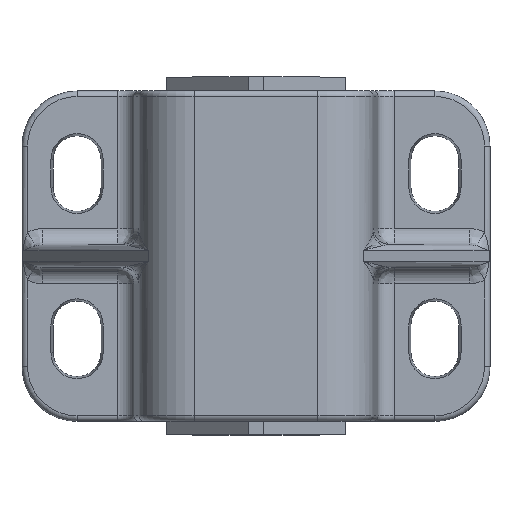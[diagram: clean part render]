
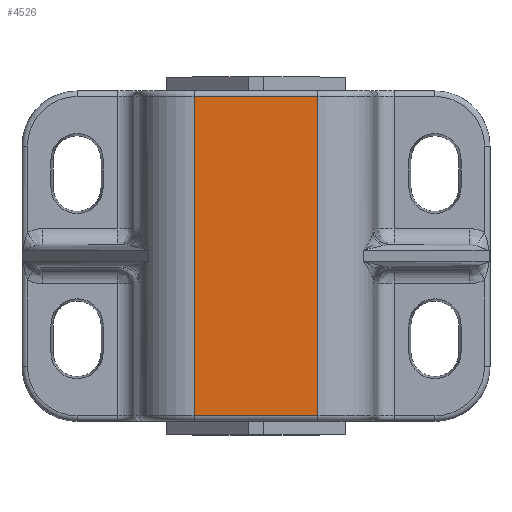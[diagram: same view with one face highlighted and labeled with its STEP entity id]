
A CAD part, top view. The second image highlights one B-rep face of the part: STEP entity #4526.
In plain terms, the highlighted planar face has unit normal (0, 0, 1).
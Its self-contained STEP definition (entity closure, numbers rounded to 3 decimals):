
#2426=CARTESIAN_POINT('',(-22.5,2.0,42.5));
#2427=VERTEX_POINT('',#2426);
#2435=CARTESIAN_POINT('',(-22.5,118.0,42.5));
#2436=VERTEX_POINT('',#2435);
#2437=CARTESIAN_POINT('',(-22.5,2.0,42.5));
#2438=DIRECTION('',(0.0,1.0,0.0));
#2439=VECTOR('',#2438,116.0);
#2440=LINE('',#2437,#2439);
#2441=EDGE_CURVE('',#2427,#2436,#2440,.T.);
#3576=CARTESIAN_POINT('',(22.5,118.0,42.5));
#3577=VERTEX_POINT('',#3576);
#3585=CARTESIAN_POINT('',(22.5,2.0,42.5));
#3586=VERTEX_POINT('',#3585);
#3587=CARTESIAN_POINT('',(22.5,2.0,42.5));
#3588=DIRECTION('',(0.0,1.0,0.0));
#3589=VECTOR('',#3588,116.0);
#3590=LINE('',#3587,#3589);
#3591=EDGE_CURVE('',#3586,#3577,#3590,.T.);
#4410=CARTESIAN_POINT('',(-22.5,118.0,42.5));
#4411=DIRECTION('',(1.0,0.0,0.0));
#4412=VECTOR('',#4411,45.);
#4413=LINE('',#4410,#4412);
#4414=EDGE_CURVE('',#2436,#3577,#4413,.T.);
#4510=CARTESIAN_POINT('',(0.,0.0,42.5));
#4511=DIRECTION('',(0.0,0.0,1.0));
#4512=DIRECTION('',(1.0,0.0,0.0));
#4513=AXIS2_PLACEMENT_3D('',#4510,#4511,#4512);
#4514=PLANE('',#4513);
#4515=ORIENTED_EDGE('',*,*,#4414,.F.);
#4516=ORIENTED_EDGE('',*,*,#2441,.F.);
#4517=CARTESIAN_POINT('',(22.5,2.0,42.5));
#4518=DIRECTION('',(-1.0,0.0,0.0));
#4519=VECTOR('',#4518,45.);
#4520=LINE('',#4517,#4519);
#4521=EDGE_CURVE('',#3586,#2427,#4520,.T.);
#4522=ORIENTED_EDGE('',*,*,#4521,.F.);
#4523=ORIENTED_EDGE('',*,*,#3591,.T.);
#4524=EDGE_LOOP('',(#4515,#4516,#4522,#4523));
#4525=FACE_OUTER_BOUND('',#4524,.T.);
#4526=ADVANCED_FACE('',(#4525),#4514,.T.);
